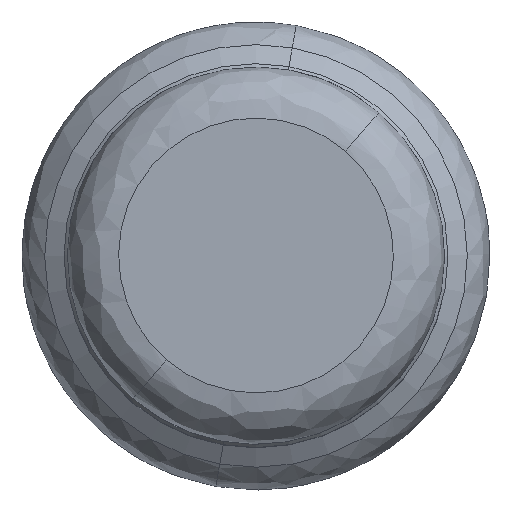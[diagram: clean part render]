
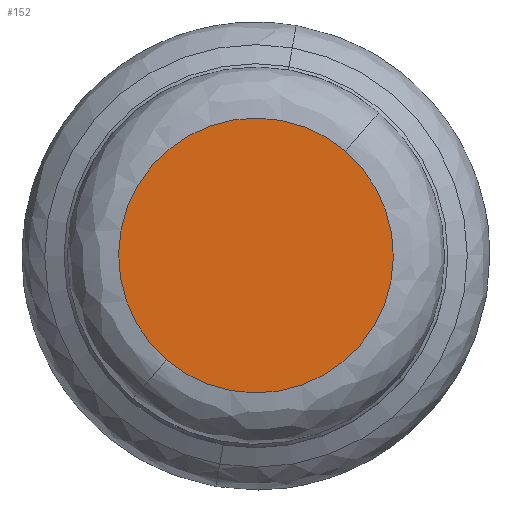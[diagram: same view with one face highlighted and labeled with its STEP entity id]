
A CAD part, top view. The second image highlights one B-rep face of the part: STEP entity #152.
In plain terms, the highlighted free-form (B-spline) face has degree [1, 1] with [2, 2] control points.
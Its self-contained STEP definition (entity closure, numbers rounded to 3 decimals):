
#152=ADVANCED_FACE('',(#365),#366,.T.);
#274=VERTEX_POINT('',#488);
#278=VERTEX_POINT('',#492);
#280=EDGE_CURVE('',#274,#278,#494,.T.);
#284=EDGE_CURVE('',#278,#274,#498,.T.);
#365=FACE_OUTER_BOUND('',#883,.T.);
#366=B_SPLINE_SURFACE_WITH_KNOTS('',1,1,((#884,#885),(#886,#887)),.UNSPECIFIED.,.F.,.F.,.F.,(2,2),(2,2),(0.147,0.853),(0.147,0.853),.UNSPECIFIED.);
#488=CARTESIAN_POINT('',(-5.249,-6.103,5.));
#492=CARTESIAN_POINT('',(5.249,6.103,5.));
#494=CIRCLE('',#1096,8.05);
#498=CIRCLE('',#1111,8.05);
#883=EDGE_LOOP('',(#1217,#1218));
#884=CARTESIAN_POINT('',(-9.581,-6.209,5.));
#885=CARTESIAN_POINT('',(-6.209,9.581,5.));
#886=CARTESIAN_POINT('',(6.209,-9.581,5.));
#887=CARTESIAN_POINT('',(9.581,6.209,5.));
#1096=AXIS2_PLACEMENT_3D('',#1299,#1300,#1301);
#1111=AXIS2_PLACEMENT_3D('',#1302,#1303,#1304);
#1217=ORIENTED_EDGE('',*,*,#280,.F.);
#1218=ORIENTED_EDGE('',*,*,#284,.F.);
#1299=CARTESIAN_POINT('',(0.,0.,5.));
#1300=DIRECTION('',(0.,0.,-1.0));
#1301=DIRECTION('',(-0.652,-0.758,0.));
#1302=CARTESIAN_POINT('',(0.,0.,5.));
#1303=DIRECTION('',(0.,0.,-1.0));
#1304=DIRECTION('',(0.652,0.758,0.));
